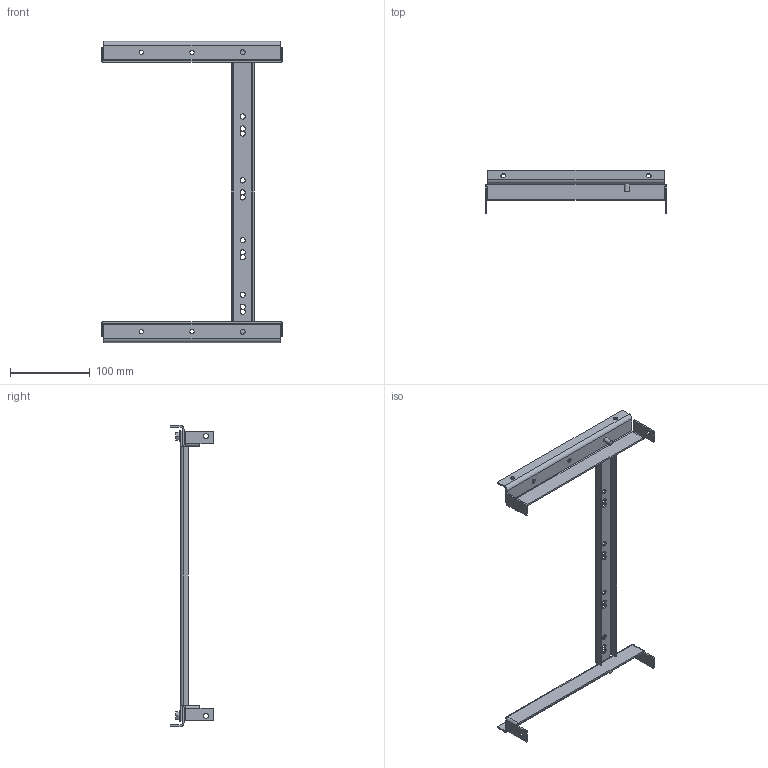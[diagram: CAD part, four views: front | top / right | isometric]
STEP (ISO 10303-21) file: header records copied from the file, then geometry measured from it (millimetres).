
FILE_DESCRIPTION((''),'2;1');
FILE_NAME('SB108878_3D_COLOUR','2013-08-12T',('SESA214371'),('Schneider-Electric'),'PRO/ENGINEER BY PARAMETRIC TECHNOLOGY CORPORATION, 2011410','PRO/ENGINEER BY PARAMETRIC TECHNOLOGY CORPORATION, 2011410','');
FILE_SCHEMA(('CONFIG_CONTROL_DESIGN'));
Length unit declared in the file: millimetre
Products named in the file (1): SB108878_3D_COLOUR
Bounding box: 227 x 54 x 377 mm (x, y, z)
Volume: 86071.7 mm3; surface area: 89229.9 mm2
Topology: 1 solids, 3 shells, 174 faces, 460 edges, 296 vertices
Faces by surface type: plane 98, cylinder 76
Entity records: 5522 total; most frequent: DIRECTION 980, CARTESIAN_POINT 930, ORIENTED_EDGE 920, EDGE_CURVE 460, AXIS2_PLACEMENT_3D 346, VERTEX_POINT 296, VECTOR 288, LINE 288
